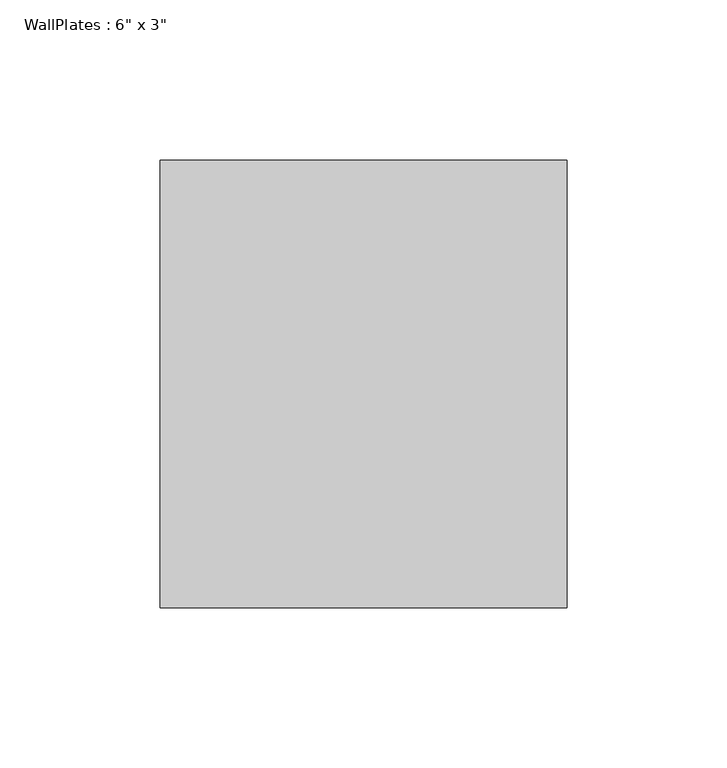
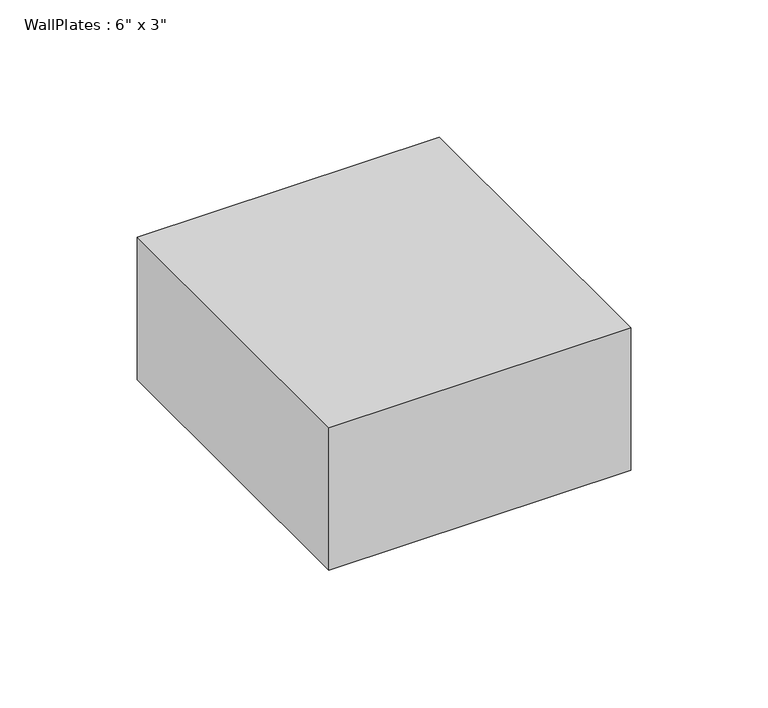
"""IFC4 building model written with IfcOpenShell, lengths in millimetres: beam geometry."""

from ifc_helpers import new_model, si_unit, frame, origin, place, context, project, spatial, polyline, outline, extrude, source, transform, mapped, element, save


def beam_48424ac2(model_context):
    return source(origin(), model_context, "Body", "SweptSolid", [
        extrude(outline(polyline([(-63.495, -69.85), (-63.495, 69.85), (63.495, 69.85), (63.495, -69.85), (-63.495, -69.85)])), frame((0.0, 0.0, -31.75), z_axis=(0.0, 0.0, 1.0), x_axis=(1.0, 0.0, 0.0)), (0.0, 0.0, 1.0), 63.5),
    ])


if __name__ == "__main__":
    model = new_model("IFC4")
    model_context = context("Model", 3, world=origin())
    ifc_project = project(units=[si_unit("LENGTHUNIT", "METRE", prefix="MILLI")], contexts=[model_context])
    site = spatial("IfcSite", under=ifc_project)
    building = spatial("IfcBuilding", under=site)
    placement = place(None, origin())
    beam_shape = beam_48424ac2(model_context)
    element("IfcBeam", 1, ObjectType="WallPlates : 6\" x 3\"", at=placement, inside=building, context=model_context, shape_type="MappedRepresentation", body=[
        mapped(beam_shape, transform((0.0, 0.0, 0.0), x_axis=(1.0, 0.0, 0.0), y_axis=(0.0, 1.0, 0.0), z_axis=(0.0, 0.0, 1.0))),
    ])
    save(model, "model.ifc")
